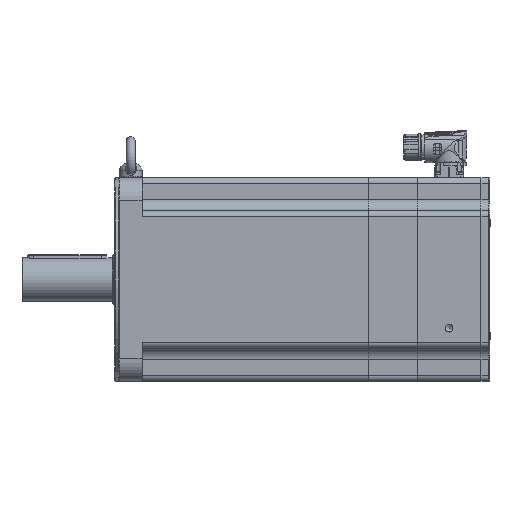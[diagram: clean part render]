
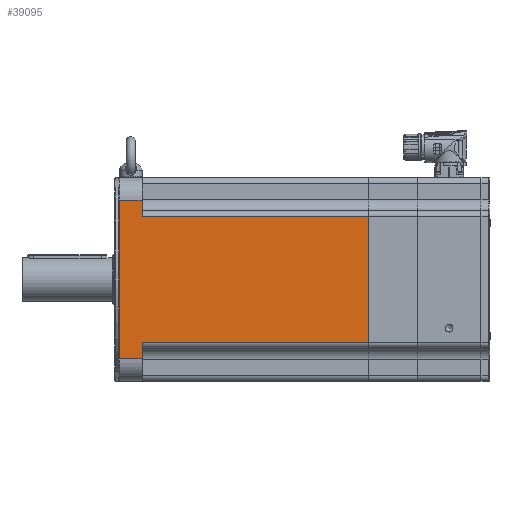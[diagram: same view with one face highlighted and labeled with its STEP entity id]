
A CAD part, left-side view. The second image highlights one B-rep face of the part: STEP entity #39095.
In plain terms, the highlighted planar face has unit normal (-1, 0, 0) as drawn and (1, 0, 0) by its records, which use the part's own axes.
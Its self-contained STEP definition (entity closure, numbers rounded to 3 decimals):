
#2901=PLANE('',#56345);
#13699=ORIENTED_EDGE('',*,*,#20487,.F.);
#13700=ORIENTED_EDGE('',*,*,#20553,.T.);
#13701=ORIENTED_EDGE('',*,*,#20521,.F.);
#13702=ORIENTED_EDGE('',*,*,#20554,.T.);
#13703=ORIENTED_EDGE('',*,*,#20555,.F.);
#13704=ORIENTED_EDGE('',*,*,#20556,.T.);
#13705=ORIENTED_EDGE('',*,*,#20541,.F.);
#13706=ORIENTED_EDGE('',*,*,#20557,.T.);
#20487=EDGE_CURVE('',#24767,#24768,#27715,.T.);
#20521=EDGE_CURVE('',#24801,#24802,#27729,.T.);
#20541=EDGE_CURVE('',#24821,#24822,#27736,.T.);
#20553=EDGE_CURVE('',#24767,#24802,#27744,.F.);
#20554=EDGE_CURVE('',#24801,#24829,#27745,.T.);
#20555=EDGE_CURVE('',#24830,#24829,#27746,.T.);
#20556=EDGE_CURVE('',#24830,#24822,#27747,.F.);
#20557=EDGE_CURVE('',#24821,#24768,#27748,.T.);
#24767=VERTEX_POINT('',#86919);
#24768=VERTEX_POINT('',#86921);
#24801=VERTEX_POINT('',#86994);
#24802=VERTEX_POINT('',#86996);
#24821=VERTEX_POINT('',#87041);
#24822=VERTEX_POINT('',#87042);
#24829=VERTEX_POINT('',#87066);
#24830=VERTEX_POINT('',#87068);
#27715=LINE('',#86920,#30184);
#27729=LINE('',#86995,#30198);
#27736=LINE('',#87040,#30205);
#27744=LINE('',#87064,#30213);
#27745=LINE('',#87065,#30214);
#27746=LINE('',#87067,#30215);
#27747=LINE('',#87069,#30216);
#27748=LINE('',#87070,#30217);
#30184=VECTOR('',#65723,1000.);
#30198=VECTOR('',#65791,1000.);
#30205=VECTOR('',#65836,1000.);
#30213=VECTOR('',#65860,1000.);
#30214=VECTOR('',#65861,1000.);
#30215=VECTOR('',#65862,1000.);
#30216=VECTOR('',#65863,1000.);
#30217=VECTOR('',#65864,1000.);
#32792=EDGE_LOOP('',(#13699,#13700,#13701,#13702,#13703,#13704,#13705,#13706));
#35850=FACE_BOUND('',#32792,.T.);
#39095=ADVANCED_FACE('',(#35850),#2901,.T.);
#56345=AXIS2_PLACEMENT_3D('',#87063,#65858,#65859);
#65723=DIRECTION('',(0.,0.,-1.));
#65791=DIRECTION('',(0.,0.,-1.));
#65836=DIRECTION('',(0.,0.,-1.));
#65858=DIRECTION('',(1.,0.,0.));
#65859=DIRECTION('',(0.,1.,0.));
#65860=DIRECTION('',(0.,1.,0.));
#65861=DIRECTION('',(0.,-1.,0.));
#65862=DIRECTION('',(0.,0.,1.));
#65863=DIRECTION('',(0.,-1.,0.));
#65864=DIRECTION('',(0.,1.,0.));
#86919=CARTESIAN_POINT('',(90.,220.8,55.2));
#86920=CARTESIAN_POINT('',(90.,220.8,-90.));
#86921=CARTESIAN_POINT('',(90.,220.8,-55.2));
#86994=CARTESIAN_POINT('',(90.,21.3,70.));
#86995=CARTESIAN_POINT('',(90.,21.3,-90.));
#86996=CARTESIAN_POINT('',(90.,21.3,55.2));
#87040=CARTESIAN_POINT('',(90.,21.3,-90.));
#87041=CARTESIAN_POINT('',(90.,21.3,-55.2));
#87042=CARTESIAN_POINT('',(90.,21.3,-70.));
#87063=CARTESIAN_POINT('',(90.,488.463,-90.));
#87064=CARTESIAN_POINT('',(90.,488.463,55.2));
#87065=CARTESIAN_POINT('',(90.,488.463,70.));
#87066=CARTESIAN_POINT('',(90.,1.3,70.));
#87067=CARTESIAN_POINT('',(90.,1.3,-90.));
#87068=CARTESIAN_POINT('',(90.,1.3,-70.));
#87069=CARTESIAN_POINT('',(90.,488.463,-70.));
#87070=CARTESIAN_POINT('',(90.,488.463,-55.2));
